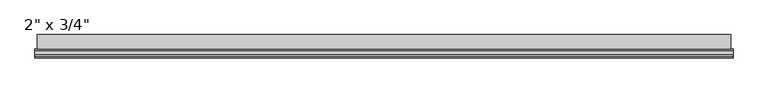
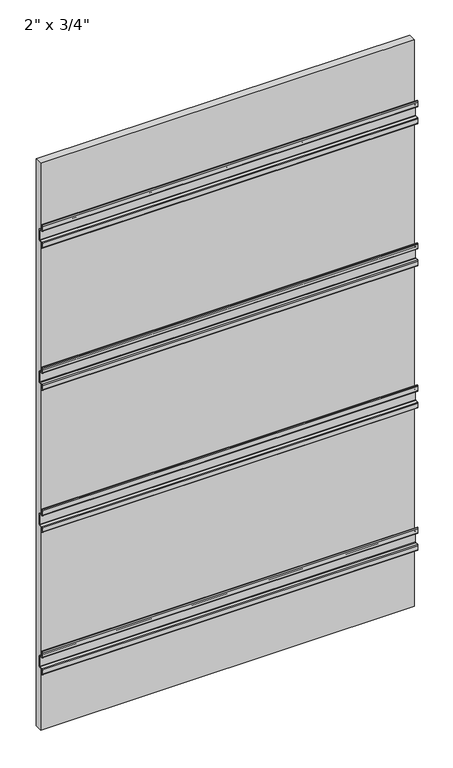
"""IFC4 building model written with IfcOpenShell, lengths in millimetres: plate geometry."""

from ifc_helpers import new_model, si_unit, point, frame, frame_2d, origin, place, context, project, spatial, polyline, circle_curve, trimmed, segment, composite_curve, outline, extrude, source, transform, mapped, element, save


def plate_96b6a4fe(model_context):
    return source(origin(), model_context, "Body", "SweptSolid", [
        extrude(outline(composite_curve([segment(trimmed(circle_curve(frame_2d((3.175, 2085.975)), 3.175), [point((3.175, 2082.8))], [point((0.0, 2085.975))], False, "CARTESIAN"), True, "CONTINUOUS"), segment(polyline([(0.0, 2085.975), (0.0, 2104.2376)]), True, "CONTINUOUS"), segment(trimmed(circle_curve(frame_2d((3.175, 2104.2376)), 3.175), [point((0.0, 2104.2376))], [point((3.175, 2107.4126))], False, "CARTESIAN"), True, "CONTINUOUS"), segment(polyline([(3.175, 2107.4126), (15.875, 2107.4126)]), True, "CONTINUOUS"), segment(trimmed(circle_curve(frame_2d((15.875, 2109.0001)), 1.5875), [point((15.875, 2107.4126))], [point((17.4625, 2109.0001))], True, "CARTESIAN"), True, "CONTINUOUS"), segment(polyline([(17.4625, 2109.0001), (17.4625, 2153.4501)]), True, "CONTINUOUS"), segment(trimmed(circle_curve(frame_2d((15.875, 2153.4501)), 1.5875), [point((17.4625, 2153.4501))], [point((15.875, 2155.0376))], True, "CARTESIAN"), True, "CONTINUOUS"), segment(polyline([(15.875, 2155.0376), (3.175, 2155.0376)]), True, "CONTINUOUS"), segment(trimmed(circle_curve(frame_2d((3.175, 2158.2126)), 3.175), [point((3.175, 2155.0376))], [point((0.0, 2158.2126))], False, "CARTESIAN"), True, "CONTINUOUS"), segment(polyline([(0.0, 2158.2126), (0.0, 2176.4752)]), True, "CONTINUOUS"), segment(trimmed(circle_curve(frame_2d((3.175, 2176.4752)), 3.175), [point((0.0, 2176.4752))], [point((3.175, 2179.6502))], False, "CARTESIAN"), True, "CONTINUOUS"), segment(polyline([(3.175, 2179.6502), (6.35, 2179.6502), (6.35, 2178.0627), (3.175, 2178.0627)]), True, "CONTINUOUS"), segment(trimmed(circle_curve(frame_2d((3.175, 2176.4752)), 1.5875), [point((3.175, 2178.0627))], [point((1.5875, 2176.4752))], True, "CARTESIAN"), True, "CONTINUOUS"), segment(polyline([(1.5875, 2176.4752), (1.5875, 2158.2126)]), True, "CONTINUOUS"), segment(trimmed(circle_curve(frame_2d((3.175, 2158.2126)), 1.5875), [point((1.5875, 2158.2126))], [point((3.175, 2156.6251))], True, "CARTESIAN"), True, "CONTINUOUS"), segment(polyline([(3.175, 2156.6251), (15.875, 2156.6251)]), True, "CONTINUOUS"), segment(trimmed(circle_curve(frame_2d((15.875, 2153.4501)), 3.175), [point((15.875, 2156.6251))], [point((19.05, 2153.4501))], False, "CARTESIAN"), True, "CONTINUOUS"), segment(polyline([(19.05, 2153.4501), (19.05, 2109.0001)]), True, "CONTINUOUS"), segment(trimmed(circle_curve(frame_2d((15.875, 2109.0001)), 3.175), [point((19.05, 2109.0001))], [point((15.875, 2105.8251))], False, "CARTESIAN"), True, "CONTINUOUS"), segment(polyline([(15.875, 2105.8251), (3.175, 2105.8251)]), True, "CONTINUOUS"), segment(trimmed(circle_curve(frame_2d((3.175, 2104.2376)), 1.5875), [point((3.175, 2105.8251))], [point((1.5875, 2104.2376))], True, "CARTESIAN"), True, "CONTINUOUS"), segment(polyline([(1.5875, 2104.2376), (1.5875, 2085.975)]), True, "CONTINUOUS"), segment(trimmed(circle_curve(frame_2d((3.175, 2085.975)), 1.5875), [point((1.5875, 2085.975))], [point((3.175, 2084.3875))], True, "CARTESIAN"), True, "CONTINUOUS"), segment(polyline([(3.175, 2084.3875), (6.35, 2084.3875), (6.35, 2082.8), (3.175, 2082.8)]), True, "CONTINUOUS")], self_intersect=False)), frame((-762.0000002, 0.0, 0.0), z_axis=(1.0, 0.0, 0.0), x_axis=(0.0, 1.0, 0.0)), (0.0, 0.0, 1.0), 1524.0000003),
        extrude(outline(composite_curve([segment(trimmed(circle_curve(frame_2d((3.175, 1476.375)), 3.175), [point((3.175, 1473.2))], [point((0.0, 1476.375))], False, "CARTESIAN"), True, "CONTINUOUS"), segment(polyline([(0.0, 1476.375), (0.0, 1494.6376)]), True, "CONTINUOUS"), segment(trimmed(circle_curve(frame_2d((3.175, 1494.6376)), 3.175), [point((0.0, 1494.6376))], [point((3.175, 1497.8126))], False, "CARTESIAN"), True, "CONTINUOUS"), segment(polyline([(3.175, 1497.8126), (15.875, 1497.8126)]), True, "CONTINUOUS"), segment(trimmed(circle_curve(frame_2d((15.875, 1499.4001)), 1.5875), [point((15.875, 1497.8126))], [point((17.4625, 1499.4001))], True, "CARTESIAN"), True, "CONTINUOUS"), segment(polyline([(17.4625, 1499.4001), (17.4625, 1543.8501)]), True, "CONTINUOUS"), segment(trimmed(circle_curve(frame_2d((15.875, 1543.8501)), 1.5875), [point((17.4625, 1543.8501))], [point((15.875, 1545.4376))], True, "CARTESIAN"), True, "CONTINUOUS"), segment(polyline([(15.875, 1545.4376), (3.175, 1545.4376)]), True, "CONTINUOUS"), segment(trimmed(circle_curve(frame_2d((3.175, 1548.6126)), 3.175), [point((3.175, 1545.4376))], [point((0.0, 1548.6126))], False, "CARTESIAN"), True, "CONTINUOUS"), segment(polyline([(0.0, 1548.6126), (0.0, 1566.8752)]), True, "CONTINUOUS"), segment(trimmed(circle_curve(frame_2d((3.175, 1566.8752)), 3.175), [point((0.0, 1566.8752))], [point((3.175, 1570.0502))], False, "CARTESIAN"), True, "CONTINUOUS"), segment(polyline([(3.175, 1570.0502), (6.35, 1570.0502), (6.35, 1568.4627), (3.175, 1568.4627)]), True, "CONTINUOUS"), segment(trimmed(circle_curve(frame_2d((3.175, 1566.8752)), 1.5875), [point((3.175, 1568.4627))], [point((1.5875, 1566.8752))], True, "CARTESIAN"), True, "CONTINUOUS"), segment(polyline([(1.5875, 1566.8752), (1.5875, 1548.6126)]), True, "CONTINUOUS"), segment(trimmed(circle_curve(frame_2d((3.175, 1548.6126)), 1.5875), [point((1.5875, 1548.6126))], [point((3.175, 1547.0251))], True, "CARTESIAN"), True, "CONTINUOUS"), segment(polyline([(3.175, 1547.0251), (15.875, 1547.0251)]), True, "CONTINUOUS"), segment(trimmed(circle_curve(frame_2d((15.875, 1543.8501)), 3.175), [point((15.875, 1547.0251))], [point((19.05, 1543.8501))], False, "CARTESIAN"), True, "CONTINUOUS"), segment(polyline([(19.05, 1543.8501), (19.05, 1499.4001)]), True, "CONTINUOUS"), segment(trimmed(circle_curve(frame_2d((15.875, 1499.4001)), 3.175), [point((19.05, 1499.4001))], [point((15.875, 1496.2251))], False, "CARTESIAN"), True, "CONTINUOUS"), segment(polyline([(15.875, 1496.2251), (3.175, 1496.2251)]), True, "CONTINUOUS"), segment(trimmed(circle_curve(frame_2d((3.175, 1494.6376)), 1.5875), [point((3.175, 1496.2251))], [point((1.5875, 1494.6376))], True, "CARTESIAN"), True, "CONTINUOUS"), segment(polyline([(1.5875, 1494.6376), (1.5875, 1476.375)]), True, "CONTINUOUS"), segment(trimmed(circle_curve(frame_2d((3.175, 1476.375)), 1.5875), [point((1.5875, 1476.375))], [point((3.175, 1474.7875))], True, "CARTESIAN"), True, "CONTINUOUS"), segment(polyline([(3.175, 1474.7875), (6.35, 1474.7875), (6.35, 1473.2), (3.175, 1473.2)]), True, "CONTINUOUS")], self_intersect=False)), frame((-762.0000002, 0.0, 0.0), z_axis=(1.0, 0.0, 0.0), x_axis=(0.0, 1.0, 0.0)), (0.0, 0.0, 1.0), 1524.0000003),
        extrude(outline(composite_curve([segment(trimmed(circle_curve(frame_2d((3.175, 866.775)), 3.175), [point((3.175, 863.6))], [point((0.0, 866.775))], False, "CARTESIAN"), True, "CONTINUOUS"), segment(polyline([(0.0, 866.775), (0.0, 885.0376)]), True, "CONTINUOUS"), segment(trimmed(circle_curve(frame_2d((3.175, 885.0376)), 3.175), [point((0.0, 885.0376))], [point((3.175, 888.2126))], False, "CARTESIAN"), True, "CONTINUOUS"), segment(polyline([(3.175, 888.2126), (15.875, 888.2126)]), True, "CONTINUOUS"), segment(trimmed(circle_curve(frame_2d((15.875, 889.8001)), 1.5875), [point((15.875, 888.2126))], [point((17.4625, 889.8001))], True, "CARTESIAN"), True, "CONTINUOUS"), segment(polyline([(17.4625, 889.8001), (17.4625, 934.2501)]), True, "CONTINUOUS"), segment(trimmed(circle_curve(frame_2d((15.875, 934.2501)), 1.5875), [point((17.4625, 934.2501))], [point((15.875, 935.8376))], True, "CARTESIAN"), True, "CONTINUOUS"), segment(polyline([(15.875, 935.8376), (3.175, 935.8376)]), True, "CONTINUOUS"), segment(trimmed(circle_curve(frame_2d((3.175, 939.0126)), 3.175), [point((3.175, 935.8376))], [point((0.0, 939.0126))], False, "CARTESIAN"), True, "CONTINUOUS"), segment(polyline([(0.0, 939.0126), (0.0, 957.2752)]), True, "CONTINUOUS"), segment(trimmed(circle_curve(frame_2d((3.175, 957.2752)), 3.175), [point((0.0, 957.2752))], [point((3.175, 960.4502))], False, "CARTESIAN"), True, "CONTINUOUS"), segment(polyline([(3.175, 960.4502), (6.35, 960.4502), (6.35, 958.8627), (3.175, 958.8627)]), True, "CONTINUOUS"), segment(trimmed(circle_curve(frame_2d((3.175, 957.2752)), 1.5875), [point((3.175, 958.8627))], [point((1.5875, 957.2752))], True, "CARTESIAN"), True, "CONTINUOUS"), segment(polyline([(1.5875, 957.2752), (1.5875, 939.0126)]), True, "CONTINUOUS"), segment(trimmed(circle_curve(frame_2d((3.175, 939.0126)), 1.5875), [point((1.5875, 939.0126))], [point((3.175, 937.4251))], True, "CARTESIAN"), True, "CONTINUOUS"), segment(polyline([(3.175, 937.4251), (15.875, 937.4251)]), True, "CONTINUOUS"), segment(trimmed(circle_curve(frame_2d((15.875, 934.2501)), 3.175), [point((15.875, 937.4251))], [point((19.05, 934.2501))], False, "CARTESIAN"), True, "CONTINUOUS"), segment(polyline([(19.05, 934.2501), (19.05, 889.8001)]), True, "CONTINUOUS"), segment(trimmed(circle_curve(frame_2d((15.875, 889.8001)), 3.175), [point((19.05, 889.8001))], [point((15.875, 886.6251))], False, "CARTESIAN"), True, "CONTINUOUS"), segment(polyline([(15.875, 886.6251), (3.175, 886.6251)]), True, "CONTINUOUS"), segment(trimmed(circle_curve(frame_2d((3.175, 885.0376)), 1.5875), [point((3.175, 886.6251))], [point((1.5875, 885.0376))], True, "CARTESIAN"), True, "CONTINUOUS"), segment(polyline([(1.5875, 885.0376), (1.5875, 866.775)]), True, "CONTINUOUS"), segment(trimmed(circle_curve(frame_2d((3.175, 866.775)), 1.5875), [point((1.5875, 866.775))], [point((3.175, 865.1875))], True, "CARTESIAN"), True, "CONTINUOUS"), segment(polyline([(3.175, 865.1875), (6.35, 865.1875), (6.35, 863.6), (3.175, 863.6)]), True, "CONTINUOUS")], self_intersect=False)), frame((-762.0000002, 0.0, 0.0), z_axis=(1.0, 0.0, 0.0), x_axis=(0.0, 1.0, 0.0)), (0.0, 0.0, 1.0), 1524.0000003),
        extrude(outline(composite_curve([segment(trimmed(circle_curve(frame_2d((3.175, 257.175)), 3.175), [point((3.175, 254.0))], [point((0.0, 257.175))], False, "CARTESIAN"), True, "CONTINUOUS"), segment(polyline([(0.0, 257.175), (0.0, 275.4376)]), True, "CONTINUOUS"), segment(trimmed(circle_curve(frame_2d((3.175, 275.4376)), 3.175), [point((0.0, 275.4376))], [point((3.175, 278.6126))], False, "CARTESIAN"), True, "CONTINUOUS"), segment(polyline([(3.175, 278.6126), (15.875, 278.6126)]), True, "CONTINUOUS"), segment(trimmed(circle_curve(frame_2d((15.875, 280.2001)), 1.5875), [point((15.875, 278.6126))], [point((17.4625, 280.2001))], True, "CARTESIAN"), True, "CONTINUOUS"), segment(polyline([(17.4625, 280.2001), (17.4625, 324.6501)]), True, "CONTINUOUS"), segment(trimmed(circle_curve(frame_2d((15.875, 324.6501)), 1.5875), [point((17.4625, 324.6501))], [point((15.875, 326.2376))], True, "CARTESIAN"), True, "CONTINUOUS"), segment(polyline([(15.875, 326.2376), (3.175, 326.2376)]), True, "CONTINUOUS"), segment(trimmed(circle_curve(frame_2d((3.175, 329.4126)), 3.175), [point((3.175, 326.2376))], [point((0.0, 329.4126))], False, "CARTESIAN"), True, "CONTINUOUS"), segment(polyline([(0.0, 329.4126), (0.0, 347.6752)]), True, "CONTINUOUS"), segment(trimmed(circle_curve(frame_2d((3.175, 347.6752)), 3.175), [point((0.0, 347.6752))], [point((3.175, 350.8502))], False, "CARTESIAN"), True, "CONTINUOUS"), segment(polyline([(3.175, 350.8502), (6.35, 350.8502), (6.35, 349.2627), (3.175, 349.2627)]), True, "CONTINUOUS"), segment(trimmed(circle_curve(frame_2d((3.175, 347.6752)), 1.5875), [point((3.175, 349.2627))], [point((1.5875, 347.6752))], True, "CARTESIAN"), True, "CONTINUOUS"), segment(polyline([(1.5875, 347.6752), (1.5875, 329.4126)]), True, "CONTINUOUS"), segment(trimmed(circle_curve(frame_2d((3.175, 329.4126)), 1.5875), [point((1.5875, 329.4126))], [point((3.175, 327.8251))], True, "CARTESIAN"), True, "CONTINUOUS"), segment(polyline([(3.175, 327.8251), (15.875, 327.8251)]), True, "CONTINUOUS"), segment(trimmed(circle_curve(frame_2d((15.875, 324.6501)), 3.175), [point((15.875, 327.8251))], [point((19.05, 324.6501))], False, "CARTESIAN"), True, "CONTINUOUS"), segment(polyline([(19.05, 324.6501), (19.05, 280.2001)]), True, "CONTINUOUS"), segment(trimmed(circle_curve(frame_2d((15.875, 280.2001)), 3.175), [point((19.05, 280.2001))], [point((15.875, 277.0251))], False, "CARTESIAN"), True, "CONTINUOUS"), segment(polyline([(15.875, 277.0251), (3.175, 277.0251)]), True, "CONTINUOUS"), segment(trimmed(circle_curve(frame_2d((3.175, 275.4376)), 1.5875), [point((3.175, 277.0251))], [point((1.5875, 275.4376))], True, "CARTESIAN"), True, "CONTINUOUS"), segment(polyline([(1.5875, 275.4376), (1.5875, 257.175)]), True, "CONTINUOUS"), segment(trimmed(circle_curve(frame_2d((3.175, 257.175)), 1.5875), [point((1.5875, 257.175))], [point((3.175, 255.5875))], True, "CARTESIAN"), True, "CONTINUOUS"), segment(polyline([(3.175, 255.5875), (6.35, 255.5875), (6.35, 254.0), (3.175, 254.0)]), True, "CONTINUOUS")], self_intersect=False)), frame((-762.0000002, 0.0, 0.0), z_axis=(1.0, 0.0, 0.0), x_axis=(0.0, 1.0, 0.0)), (0.0, 0.0, 1.0), 1524.0000003),
        extrude(outline(polyline([(757.2375002, 19.05), (-757.2375002, 19.05), (-757.2375002, 50.8), (757.2375002, 50.8), (757.2375002, 19.05)])), frame((0.0, 0.0, 4.7625), z_axis=(0.0, 0.0, 1.0), x_axis=(1.0, 0.0, 0.0)), (0.0, 0.0, 1.0), 2428.875),
    ])


if __name__ == "__main__":
    model = new_model("IFC4")
    model_context = context("Model", 3, world=origin())
    ifc_project = project(units=[si_unit("LENGTHUNIT", "METRE", prefix="MILLI")], contexts=[model_context])
    site = spatial("IfcSite", under=ifc_project)
    building = spatial("IfcBuilding", under=site)
    placement = place(None, origin())
    plate_shape = plate_96b6a4fe(model_context)
    element("IfcPlate", 1, ObjectType="KWS_Generic-Panel_w_PanelRail-H : 2\" x 3/4\"", at=placement, inside=building, context=model_context, shape_type="MappedRepresentation", body=[
        mapped(plate_shape, transform((0.0, 0.0, 0.0), x_axis=(1.0, 0.0, 0.0), y_axis=(0.0, 1.0, 0.0), z_axis=(0.0, 0.0, 1.0))),
    ])
    save(model, "model.ifc")
